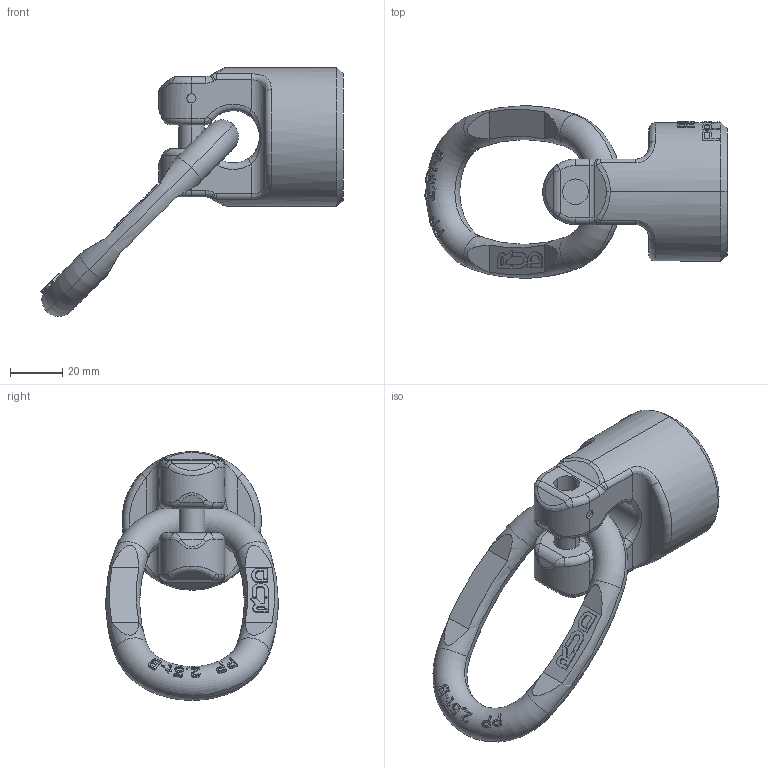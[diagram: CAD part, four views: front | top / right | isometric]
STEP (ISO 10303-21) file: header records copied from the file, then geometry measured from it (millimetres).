
FILE_DESCRIPTION((''),'2;1');
FILE_NAME('001-M31347-P-50_ASM','2018-04-26T',('Anja.Joas'),(''),'PRO/ENGINEER BY PARAMETRIC TECHNOLOGY CORPORATION, 2011490','PRO/ENGINEER BY PARAMETRIC TECHNOLOGY CORPORATION, 2011490','');
FILE_SCHEMA(('CONFIG_CONTROL_DESIGN'));
Length unit declared in the file: millimetre
Products named in the file (3): 001-M31347-P-20_AF0; 001-M31290-002; 001-M31347-P-50_ASM
Assembly tree (2 placements, depth 2):
  001-M31347-P-50_ASM
    001-M31347-P-20_AF0
    001-M31290-002
Bounding box: 115.61 x 66.08 x 95.2 mm (x, y, z)
Volume: 126919.1 mm3; surface area: 24860.3 mm2
Topology: 2 solids, 2 shells, 600 faces, 1614 edges, 1050 vertices
Faces by surface type: plane 475, cylinder 62, bspline 30, torus 30, cone 2, extrusion 1
Entity records: 20543 total; most frequent: CARTESIAN_POINT 6328, ORIENTED_EDGE 3228, DIRECTION 2510, EDGE_CURVE 1614, VERTEX_POINT 1050, VECTOR 842, LINE 841, AXIS2_PLACEMENT_3D 834
